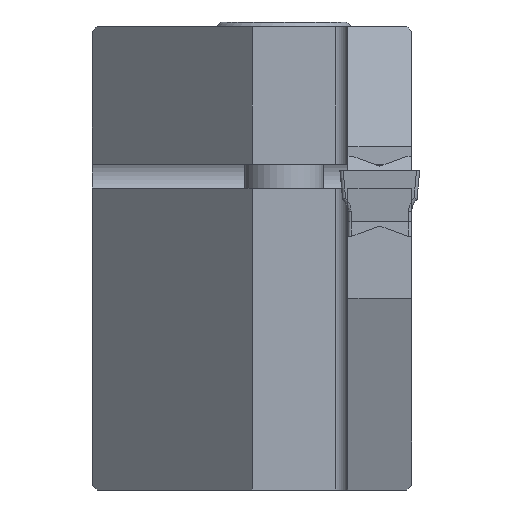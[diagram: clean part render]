
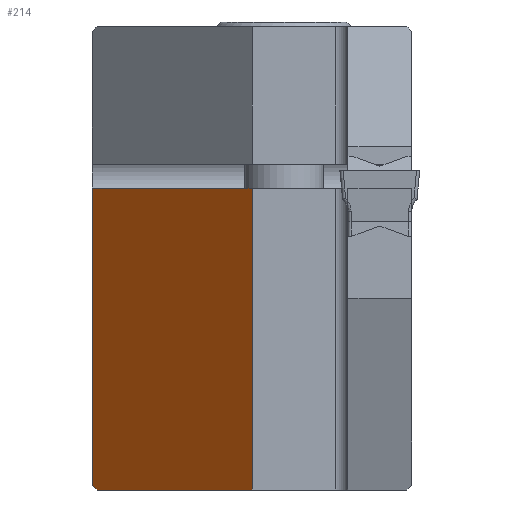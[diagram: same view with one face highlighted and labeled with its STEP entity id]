
A CAD part, left-side view. The second image highlights one B-rep face of the part: STEP entity #214.
In plain terms, the highlighted planar face has unit normal (-0.707, 0.707, 0).
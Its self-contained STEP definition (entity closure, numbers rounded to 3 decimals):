
#214=ADVANCED_FACE('',(#440),#326,.F.);
#326=PLANE('',#2620);
#440=FACE_OUTER_BOUND('',#558,.T.);
#558=EDGE_LOOP('',(#1013,#1014,#1015,#1016,#1017));
#1013=ORIENTED_EDGE('',*,*,#1744,.F.);
#1014=ORIENTED_EDGE('',*,*,#1754,.T.);
#1015=ORIENTED_EDGE('',*,*,#1755,.F.);
#1016=ORIENTED_EDGE('',*,*,#1749,.F.);
#1017=ORIENTED_EDGE('',*,*,#1756,.T.);
#1478=VERTEX_POINT('',#4065);
#1479=VERTEX_POINT('',#4067);
#1482=VERTEX_POINT('',#4075);
#1483=VERTEX_POINT('',#4077);
#1486=VERTEX_POINT('',#4087);
#1744=EDGE_CURVE('',#1478,#1479,#2102,.T.);
#1749=EDGE_CURVE('',#1482,#1483,#2106,.T.);
#1754=EDGE_CURVE('',#1478,#1486,#2111,.T.);
#1755=EDGE_CURVE('',#1483,#1486,#2112,.T.);
#1756=EDGE_CURVE('',#1482,#1479,#2113,.T.);
#2102=LINE('',#4066,#2338);
#2106=LINE('',#4076,#2342);
#2111=LINE('',#4086,#2347);
#2112=LINE('',#4088,#2348);
#2113=LINE('',#4089,#2349);
#2338=VECTOR('',#3039,1.);
#2342=VECTOR('',#3047,1.);
#2347=VECTOR('',#3056,1.);
#2348=VECTOR('',#3057,1.);
#2349=VECTOR('',#3058,1.);
#2620=AXIS2_PLACEMENT_3D('',#4090,#3059,#3060);
#3039=DIRECTION('',(0.,0.,1.));
#3047=DIRECTION('',(0.,0.,-1.));
#3056=DIRECTION('',(-0.577,-0.577,-0.577));
#3057=DIRECTION('',(0.707,0.707,0.));
#3058=DIRECTION('',(0.707,0.707,0.));
#3059=DIRECTION('',(0.707,-0.707,0.));
#3060=DIRECTION('',(0.,0.,1.));
#4065=CARTESIAN_POINT('',(27.5,20.,-19.7));
#4066=CARTESIAN_POINT('',(27.5,20.,0.8));
#4067=CARTESIAN_POINT('',(27.5,20.,-1.1));
#4075=CARTESIAN_POINT('',(17.5,10.,-1.1));
#4076=CARTESIAN_POINT('',(17.5,10.,9.));
#4077=CARTESIAN_POINT('',(17.5,10.,-20.));
#4086=CARTESIAN_POINT('',(34.333,26.833,-12.867));
#4087=CARTESIAN_POINT('',(27.2,19.7,-20.));
#4088=CARTESIAN_POINT('',(16.184,8.684,-20.));
#4089=CARTESIAN_POINT('',(27.5,20.,-1.1));
#4090=CARTESIAN_POINT('',(27.5,20.,0.8));
